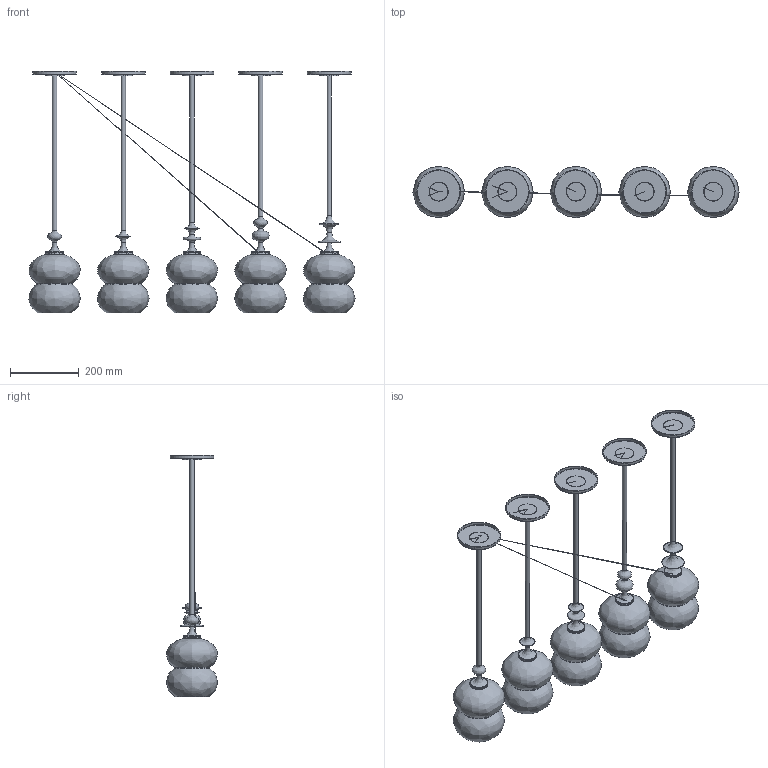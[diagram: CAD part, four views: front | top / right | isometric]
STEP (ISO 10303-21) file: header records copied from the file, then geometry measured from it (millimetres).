
FILE_DESCRIPTION(/* description */ (''),/* implementation_level */ '2;1');
FILE_NAME(/* name */ 'SkLO_AvroKO_OestrePendant_3D_LT606-610',/* time_stamp */ '2025-08-04T12:09:47+02:00',/* author */ (''),/* organization */ (''),/* preprocessor_version */ 'ST-DEVELOPER v16.5',/* originating_system */ 'Rhino 7.38',/* authorisation */ '');
FILE_SCHEMA (('CONFIG_CONTROL_DESIGN'));
Length unit declared in the file: millimetre
Products named in the file (1): Document
Bounding box: 949.91 x 150 x 704.52 mm (x, y, z)
Volume: 2883436.7 mm3; surface area: 1310361.6 mm2
Topology: 45 solids, 55 shells, 500 faces, 1086 edges, 622 vertices
Faces by surface type: bspline 274, cylinder 121, plane 105
Full cylindrical faces by diameter (mm): 9.185 x10, 11 x1, 13 x5, 18.275 x5, 21 x5, 24 x10, 24.077 x10, 27.5 x5, 29.988 x5, 30.8 x10, 36 x5, 42 x5, 46 x5, 52 x5, 90 x5, 124 x5, 127 x5
Entity records: 79587 total; most frequent: CARTESIAN_POINT 72991, ORIENTED_EDGE 2056, EDGE_CURVE 1033, VERTEX_POINT 618, EDGE_LOOP 515, ADVANCED_FACE 500, FACE_OUTER_BOUND 500, B_SPLINE_CURVE_WITH_KNOTS 464
